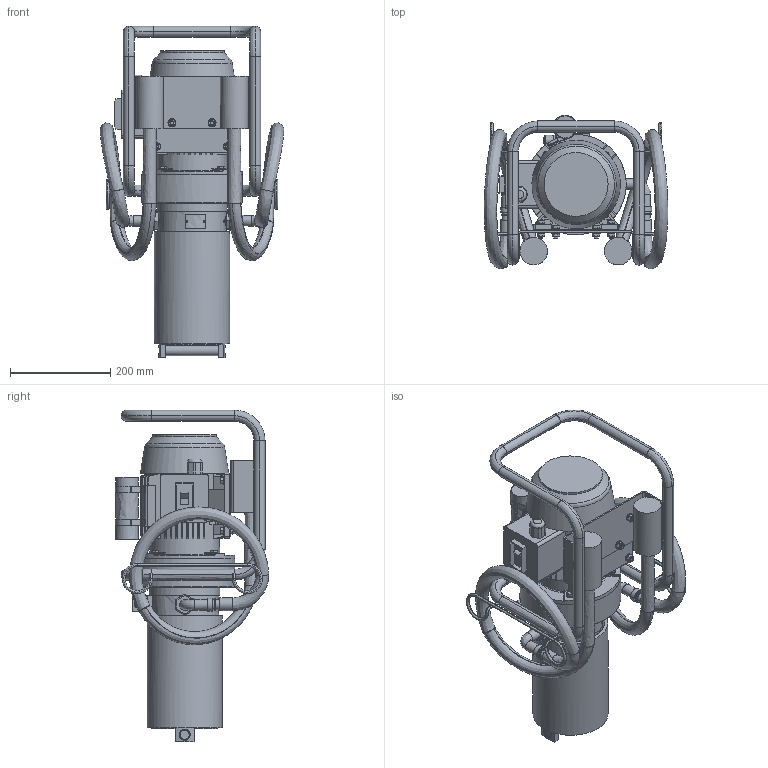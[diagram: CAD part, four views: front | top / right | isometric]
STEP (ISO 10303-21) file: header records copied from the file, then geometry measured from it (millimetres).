
FILE_DESCRIPTION((''),'2;1');
FILE_NAME('U:\Users\a.heinl\Filteraggregat.stp', '2014-01-13T10:29:31',('User'),('SDRC'),'I-DEAS Master Series 9','UNIX', 'Yes');
FILE_SCHEMA(('AUTOMOTIVE_DESIGN { 1 0 10303 214 1 1 1 1 }'));
Length unit declared in the file: millimetre
Products named in the file (1): 19381400(331025)
Bounding box: 366.2 x 306.2 x 661.5 mm (x, y, z)
Volume: 107123.3 mm3; surface area: 1246868.9 mm2
Topology: 2 solids, 20 shells, 1773 faces, 4735 edges, 3297 vertices
Faces by surface type: bspline 1773
Entity records: 63437 total; most frequent: CARTESIAN_POINT 37708, ORIENTED_EDGE 8924, EDGE_CURVE 4462, VERTEX_POINT 2855, EDGE_LOOP 1994, B_SPLINE_CURVE_WITH_KNOTS 1842, FACE_OUTER_BOUND 1773, ADVANCED_FACE 1773
